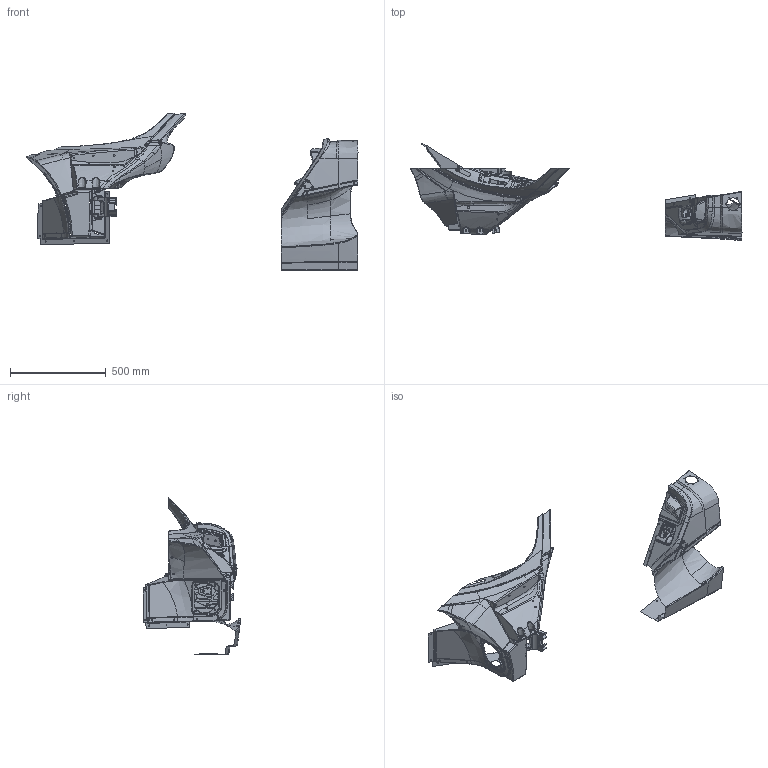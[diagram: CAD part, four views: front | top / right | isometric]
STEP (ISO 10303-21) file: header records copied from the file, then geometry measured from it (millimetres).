
FILE_DESCRIPTION((''),'2;1');
FILE_NAME('C:\Users\Indrek\Documents\GrabCAD\Competitions\Koenigsegg\Koenigsegg hood release CAD package.stp','2011-09-26T17:13:55',('Indrek'),(''),'Autodesk Inventor 2011','Autodesk Inventor 2011','');
FILE_SCHEMA(('AUTOMOTIVE_DESIGN { 1 0 10303 214 1 1 1 1 }'));
Length unit declared in the file: millimetre
Products named in the file (1): Koenigsegg hood release CAD package
Bounding box: 1729.45 x 508.25 x 820.9 mm (x, y, z)
Volume: 771124.8 mm3; surface area: 1684220.4 mm2
Topology: 12 solids, 16 shells, 3641 faces, 10045 edges, 6375 vertices
Faces by surface type: bspline 1441, plane 1293, cylinder 667, torus 89, sphere 79, cone 72
Full cylindrical faces by diameter (mm): 5 x8, 6 x4, 6.1 x4, 6.85 x2, 7.405 x4, 7.6 x2, 8 x6, 11.8 x2, 13.75 x2, 20 x2, 22 x1, 37 x4, 42 x4
Entity records: 275250 total; most frequent: CARTESIAN_POINT 190583, ORIENTED_EDGE 19039, DIRECTION 12772, EDGE_CURVE 9870, VERTEX_POINT 6335, VECTOR 4418, LINE 4418, AXIS2_PLACEMENT_3D 4177
